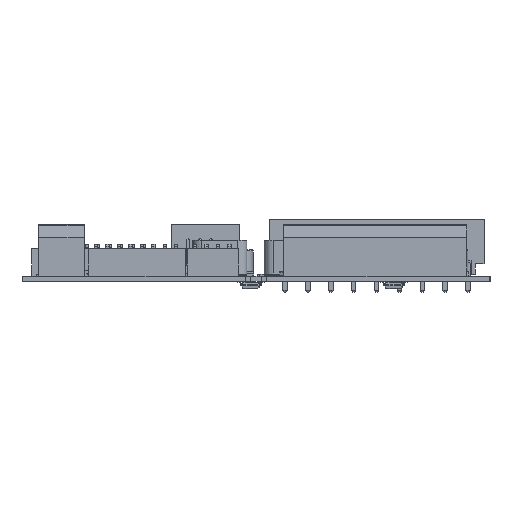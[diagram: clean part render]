
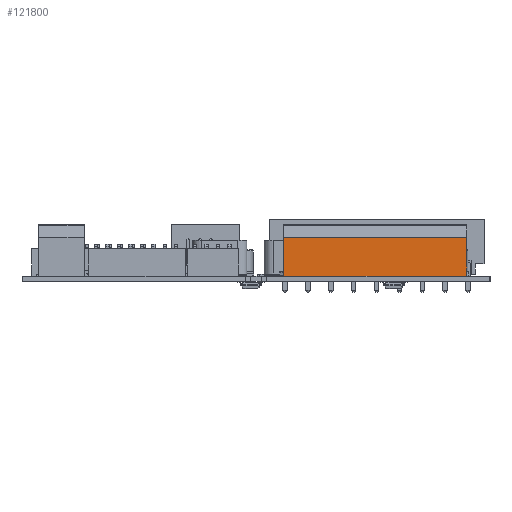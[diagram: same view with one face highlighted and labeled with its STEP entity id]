
A CAD part, front view. The second image highlights one B-rep face of the part: STEP entity #121800.
In plain terms, the highlighted planar face has unit normal (0, -1, 0) as drawn and (0, 1, 0) by its records, which use the part's own axes.
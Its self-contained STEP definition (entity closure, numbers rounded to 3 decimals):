
#119411 = PLANE('',#119412);
#119412 = AXIS2_PLACEMENT_3D('',#119413,#119414,#119415);
#119413 = CARTESIAN_POINT('',(-2.54,0.,11.43));
#119414 = DIRECTION('',(1.,0.,0.));
#119415 = DIRECTION('',(0.,0.,-1.));
#119947 = PLANE('',#119948);
#119948 = AXIS2_PLACEMENT_3D('',#119949,#119950,#119951);
#119949 = CARTESIAN_POINT('',(38.1,0.,11.43));
#119950 = DIRECTION('',(1.,0.,0.));
#119951 = DIRECTION('',(0.,0.,-1.));
#121691 = PLANE('',#121692);
#121692 = AXIS2_PLACEMENT_3D('',#121693,#121694,#121695);
#121693 = CARTESIAN_POINT('',(38.1,0.,0.));
#121694 = DIRECTION('',(0.,0.,1.));
#121695 = DIRECTION('',(1.,0.,0.));
#121729 = VERTEX_POINT('',#121730);
#121730 = CARTESIAN_POINT('',(-2.54,7.62,0.));
#121751 = EDGE_CURVE('',#121752,#121729,#121754,.T.);
#121752 = VERTEX_POINT('',#121753);
#121753 = CARTESIAN_POINT('',(38.1,7.62,0.));
#121754 = SURFACE_CURVE('',#121755,(#121759,#121766),.PCURVE_S1.);
#121755 = LINE('',#121756,#121757);
#121756 = CARTESIAN_POINT('',(38.1,7.62,0.));
#121757 = VECTOR('',#121758,1.);
#121758 = DIRECTION('',(-1.,0.,0.));
#121759 = PCURVE('',#121691,#121760);
#121760 = DEFINITIONAL_REPRESENTATION('',(#121761),#121765);
#121761 = LINE('',#121762,#121763);
#121762 = CARTESIAN_POINT('',(0.,7.62));
#121763 = VECTOR('',#121764,1.);
#121764 = DIRECTION('',(-1.,0.));
#121765 = ( GEOMETRIC_REPRESENTATION_CONTEXT(2) 
PARAMETRIC_REPRESENTATION_CONTEXT() REPRESENTATION_CONTEXT('2D SPACE',''
  ) );
#121766 = PCURVE('',#121767,#121772);
#121767 = PLANE('',#121768);
#121768 = AXIS2_PLACEMENT_3D('',#121769,#121770,#121771);
#121769 = CARTESIAN_POINT('',(38.1,7.62,0.));
#121770 = DIRECTION('',(0.,-1.,0.));
#121771 = DIRECTION('',(0.,0.,-1.));
#121772 = DEFINITIONAL_REPRESENTATION('',(#121773),#121777);
#121773 = LINE('',#121774,#121775);
#121774 = CARTESIAN_POINT('',(0.,0.));
#121775 = VECTOR('',#121776,1.);
#121776 = DIRECTION('',(0.,-1.));
#121777 = ( GEOMETRIC_REPRESENTATION_CONTEXT(2) 
PARAMETRIC_REPRESENTATION_CONTEXT() REPRESENTATION_CONTEXT('2D SPACE',''
  ) );
#121800 = ADVANCED_FACE('',(#121801),#121767,.F.);
#121801 = FACE_BOUND('',#121802,.T.);
#121802 = EDGE_LOOP('',(#121803,#121826,#121854,#121875));
#121803 = ORIENTED_EDGE('',*,*,#121804,.T.);
#121804 = EDGE_CURVE('',#121729,#121805,#121807,.T.);
#121805 = VERTEX_POINT('',#121806);
#121806 = CARTESIAN_POINT('',(-2.54,7.62,8.64));
#121807 = SURFACE_CURVE('',#121808,(#121812,#121819),.PCURVE_S1.);
#121808 = LINE('',#121809,#121810);
#121809 = CARTESIAN_POINT('',(-2.54,7.62,0.));
#121810 = VECTOR('',#121811,1.);
#121811 = DIRECTION('',(0.,0.,1.));
#121812 = PCURVE('',#121767,#121813);
#121813 = DEFINITIONAL_REPRESENTATION('',(#121814),#121818);
#121814 = LINE('',#121815,#121816);
#121815 = CARTESIAN_POINT('',(0.,-40.64));
#121816 = VECTOR('',#121817,1.);
#121817 = DIRECTION('',(-1.,0.));
#121818 = ( GEOMETRIC_REPRESENTATION_CONTEXT(2) 
PARAMETRIC_REPRESENTATION_CONTEXT() REPRESENTATION_CONTEXT('2D SPACE',''
  ) );
#121819 = PCURVE('',#119411,#121820);
#121820 = DEFINITIONAL_REPRESENTATION('',(#121821),#121825);
#121821 = LINE('',#121822,#121823);
#121822 = CARTESIAN_POINT('',(11.43,7.62));
#121823 = VECTOR('',#121824,1.);
#121824 = DIRECTION('',(-1.,0.));
#121825 = ( GEOMETRIC_REPRESENTATION_CONTEXT(2) 
PARAMETRIC_REPRESENTATION_CONTEXT() REPRESENTATION_CONTEXT('2D SPACE',''
  ) );
#121826 = ORIENTED_EDGE('',*,*,#121827,.F.);
#121827 = EDGE_CURVE('',#121828,#121805,#121830,.T.);
#121828 = VERTEX_POINT('',#121829);
#121829 = CARTESIAN_POINT('',(38.1,7.62,8.64));
#121830 = SURFACE_CURVE('',#121831,(#121835,#121842),.PCURVE_S1.);
#121831 = LINE('',#121832,#121833);
#121832 = CARTESIAN_POINT('',(38.1,7.62,8.64));
#121833 = VECTOR('',#121834,1.);
#121834 = DIRECTION('',(-1.,0.,0.));
#121835 = PCURVE('',#121767,#121836);
#121836 = DEFINITIONAL_REPRESENTATION('',(#121837),#121841);
#121837 = LINE('',#121838,#121839);
#121838 = CARTESIAN_POINT('',(-8.64,0.));
#121839 = VECTOR('',#121840,1.);
#121840 = DIRECTION('',(0.,-1.));
#121841 = ( GEOMETRIC_REPRESENTATION_CONTEXT(2) 
PARAMETRIC_REPRESENTATION_CONTEXT() REPRESENTATION_CONTEXT('2D SPACE',''
  ) );
#121842 = PCURVE('',#121843,#121848);
#121843 = PLANE('',#121844);
#121844 = AXIS2_PLACEMENT_3D('',#121845,#121846,#121847);
#121845 = CARTESIAN_POINT('',(38.1,7.62,8.64));
#121846 = DIRECTION('',(0.,0.,1.));
#121847 = DIRECTION('',(1.,0.,0.));
#121848 = DEFINITIONAL_REPRESENTATION('',(#121849),#121853);
#121849 = LINE('',#121850,#121851);
#121850 = CARTESIAN_POINT('',(0.,0.));
#121851 = VECTOR('',#121852,1.);
#121852 = DIRECTION('',(-1.,0.));
#121853 = ( GEOMETRIC_REPRESENTATION_CONTEXT(2) 
PARAMETRIC_REPRESENTATION_CONTEXT() REPRESENTATION_CONTEXT('2D SPACE',''
  ) );
#121854 = ORIENTED_EDGE('',*,*,#121855,.F.);
#121855 = EDGE_CURVE('',#121752,#121828,#121856,.T.);
#121856 = SURFACE_CURVE('',#121857,(#121861,#121868),.PCURVE_S1.);
#121857 = LINE('',#121858,#121859);
#121858 = CARTESIAN_POINT('',(38.1,7.62,0.));
#121859 = VECTOR('',#121860,1.);
#121860 = DIRECTION('',(0.,0.,1.));
#121861 = PCURVE('',#121767,#121862);
#121862 = DEFINITIONAL_REPRESENTATION('',(#121863),#121867);
#121863 = LINE('',#121864,#121865);
#121864 = CARTESIAN_POINT('',(0.,0.));
#121865 = VECTOR('',#121866,1.);
#121866 = DIRECTION('',(-1.,0.));
#121867 = ( GEOMETRIC_REPRESENTATION_CONTEXT(2) 
PARAMETRIC_REPRESENTATION_CONTEXT() REPRESENTATION_CONTEXT('2D SPACE',''
  ) );
#121868 = PCURVE('',#119947,#121869);
#121869 = DEFINITIONAL_REPRESENTATION('',(#121870),#121874);
#121870 = LINE('',#121871,#121872);
#121871 = CARTESIAN_POINT('',(11.43,7.62));
#121872 = VECTOR('',#121873,1.);
#121873 = DIRECTION('',(-1.,0.));
#121874 = ( GEOMETRIC_REPRESENTATION_CONTEXT(2) 
PARAMETRIC_REPRESENTATION_CONTEXT() REPRESENTATION_CONTEXT('2D SPACE',''
  ) );
#121875 = ORIENTED_EDGE('',*,*,#121751,.T.);
